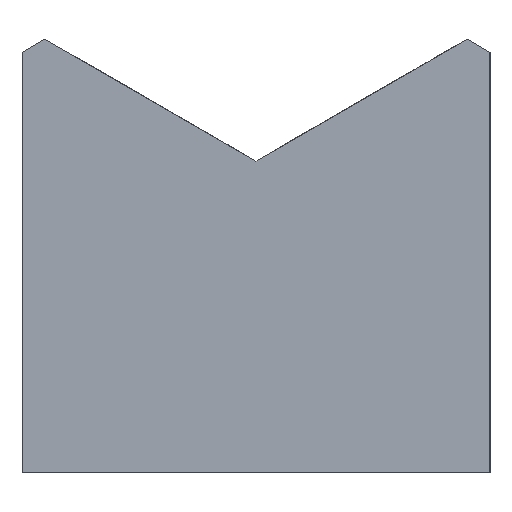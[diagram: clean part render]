
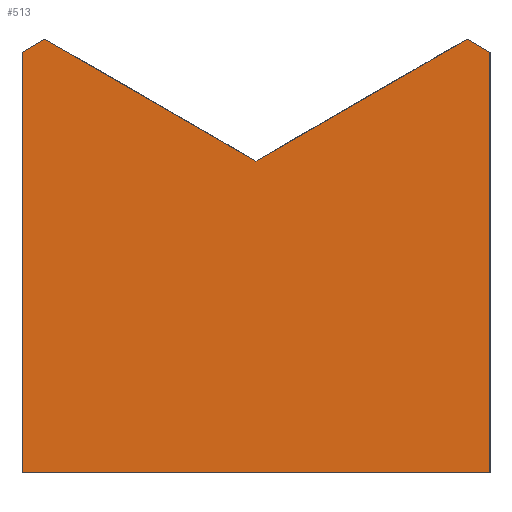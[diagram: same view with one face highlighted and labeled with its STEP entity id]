
A CAD part, left-side view. The second image highlights one B-rep face of the part: STEP entity #513.
In plain terms, the highlighted planar face has unit normal (-1, 0, 0).
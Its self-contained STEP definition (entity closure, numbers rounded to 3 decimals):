
#21=DIRECTION('',(0.,-1.,0.));
#22=VECTOR('',#21,17.8);
#23=CARTESIAN_POINT('',(-38.05,8.9,0.));
#24=LINE('',#23,#22);
#138=DIRECTION('',(0.,0.866,-0.5));
#139=VECTOR('',#138,1.);
#140=CARTESIAN_POINT('',(-38.05,8.034,16.5));
#141=LINE('',#140,#139);
#142=DIRECTION('',(0.,-0.866,-0.5));
#143=VECTOR('',#142,9.277);
#144=CARTESIAN_POINT('',(-38.05,8.034,16.5));
#145=LINE('',#144,#143);
#146=DIRECTION('',(0.,-0.866,0.5));
#147=VECTOR('',#146,9.277);
#148=CARTESIAN_POINT('',(-38.05,0.,11.862));
#149=LINE('',#148,#147);
#150=DIRECTION('',(0.,0.866,0.5));
#151=VECTOR('',#150,1.);
#152=CARTESIAN_POINT('',(-38.05,-8.9,16.));
#153=LINE('',#152,#151);
#154=DIRECTION('',(0.,0.,-1.));
#155=VECTOR('',#154,16.);
#156=CARTESIAN_POINT('',(-38.05,-8.9,16.));
#157=LINE('',#156,#155);
#158=DIRECTION('',(0.,0.,1.));
#159=VECTOR('',#158,16.);
#160=CARTESIAN_POINT('',(-38.05,8.9,0.));
#161=LINE('',#160,#159);
#289=CARTESIAN_POINT('',(-38.05,8.9,0.));
#290=CARTESIAN_POINT('',(-38.05,-8.9,0.));
#291=VERTEX_POINT('',#289);
#292=VERTEX_POINT('',#290);
#323=CARTESIAN_POINT('',(-38.05,0.,11.862));
#324=VERTEX_POINT('',#323);
#325=CARTESIAN_POINT('',(-38.05,8.034,16.5));
#326=CARTESIAN_POINT('',(-38.05,8.9,16.));
#327=VERTEX_POINT('',#325);
#328=VERTEX_POINT('',#326);
#333=CARTESIAN_POINT('',(-38.05,-8.9,16.));
#334=CARTESIAN_POINT('',(-38.05,-8.034,16.5));
#335=VERTEX_POINT('',#333);
#336=VERTEX_POINT('',#334);
#495=CARTESIAN_POINT('',(-38.05,8.9,0.));
#496=DIRECTION('',(-1.,0.,0.));
#497=DIRECTION('',(0.,-1.,0.));
#498=AXIS2_PLACEMENT_3D('',#495,#496,#497);
#499=PLANE('',#498);
#501=ORIENTED_EDGE('',*,*,#500,.F.);
#503=ORIENTED_EDGE('',*,*,#502,.T.);
#504=ORIENTED_EDGE('',*,*,#458,.T.);
#505=ORIENTED_EDGE('',*,*,#485,.F.);
#507=ORIENTED_EDGE('',*,*,#506,.T.);
#508=ORIENTED_EDGE('',*,*,#346,.F.);
#510=ORIENTED_EDGE('',*,*,#509,.T.);
#511=EDGE_LOOP('',(#501,#503,#504,#505,#507,#508,#510));
#512=FACE_OUTER_BOUND('',#511,.F.);
#513=ADVANCED_FACE('',(#512),#499,.T.);
#346=EDGE_CURVE('',#291,#292,#24,.T.);
#458=EDGE_CURVE('',#324,#336,#149,.T.);
#485=EDGE_CURVE('',#335,#336,#153,.T.);
#500=EDGE_CURVE('',#327,#328,#141,.T.);
#502=EDGE_CURVE('',#327,#324,#145,.T.);
#506=EDGE_CURVE('',#335,#292,#157,.T.);
#509=EDGE_CURVE('',#291,#328,#161,.T.);
